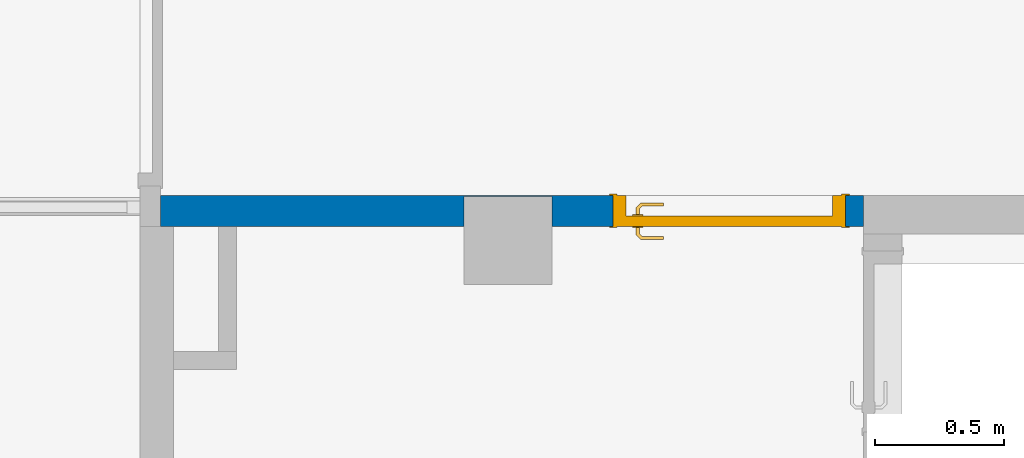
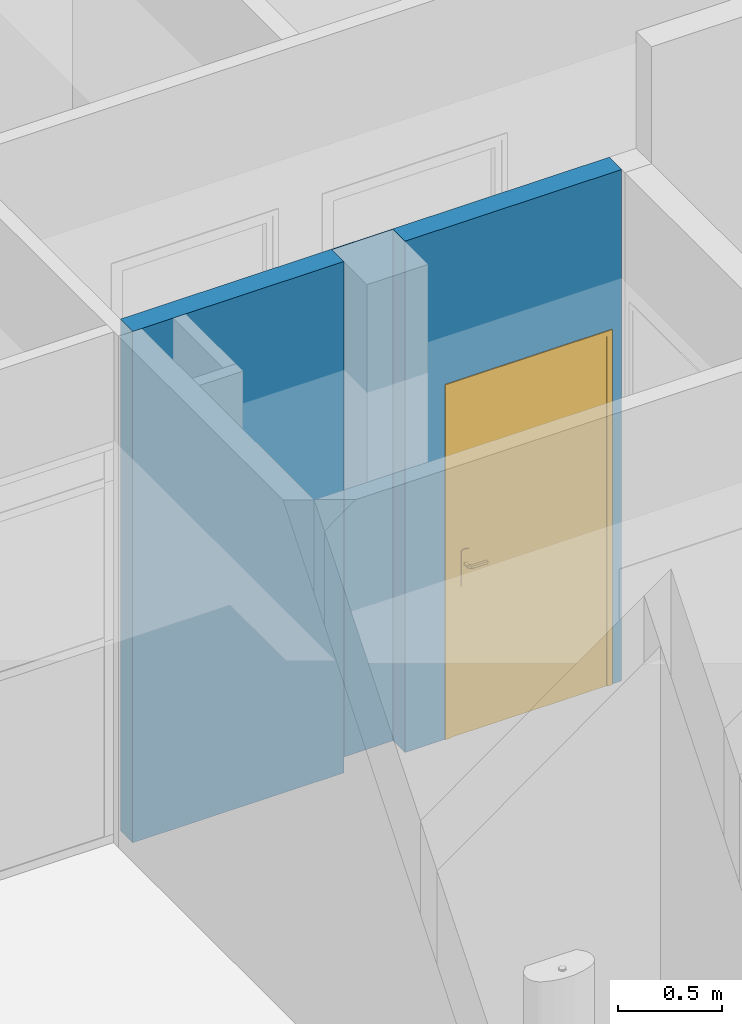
# One storey, part 66 of 97: 1 door, 1 wall, 1 opening.
"""IFC4 building model written with IfcOpenShell, lengths in metres."""

from ifc_helpers import new_model, entity, si_unit, converted_unit, derived_unit, direction, frame, origin, place, context, subcontext, project, spatial, indexed_curve, outline, extrude, polygons, source, transform, mapped, material, material_list, layer, layer_set, constituent, constituent_set, type_object, type_shapes, element, fill, save


model = new_model("IFC4")

# Units and contexts
model_context = context("Model", 3, precision=1e-05, world=origin(), true_north=direction((6.12303176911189e-17, 1.0)))
body_context = subcontext(model_context, "Body", "Model", "MODEL_VIEW")
ifc_project = project(units=[si_unit("LENGTHUNIT", "METRE"), si_unit("AREAUNIT", "SQUARE_METRE"), si_unit("VOLUMEUNIT", "CUBIC_METRE"), converted_unit("PLANEANGLEUNIT", "DEGREE", entity("IfcRatioMeasure", 0.0174532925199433), si_unit("PLANEANGLEUNIT", "RADIAN"), dimensions=[0, 0, 0, 0, 0, 0, 0]), si_unit("MASSUNIT", "GRAM", prefix="KILO"), derived_unit("MASSDENSITYUNIT", [(si_unit("MASSUNIT", "GRAM", prefix="KILO"), 1), (si_unit("LENGTHUNIT", "METRE"), -3)]), derived_unit("MOMENTOFINERTIAUNIT", [(si_unit("LENGTHUNIT", "METRE"), 4)]), si_unit("TIMEUNIT", "SECOND"), si_unit("FREQUENCYUNIT", "HERTZ"), si_unit("THERMODYNAMICTEMPERATUREUNIT", "DEGREE_CELSIUS"), derived_unit("THERMALTRANSMITTANCEUNIT", [(si_unit("MASSUNIT", "GRAM", prefix="KILO"), 1), (si_unit("THERMODYNAMICTEMPERATUREUNIT", "KELVIN"), -1), (si_unit("TIMEUNIT", "SECOND"), -3)]), derived_unit("VOLUMETRICFLOWRATEUNIT", [(si_unit("LENGTHUNIT", "METRE"), 3), (si_unit("TIMEUNIT", "SECOND"), -1)]), si_unit("ELECTRICCURRENTUNIT", "AMPERE"), si_unit("ELECTRICVOLTAGEUNIT", "VOLT"), si_unit("POWERUNIT", "WATT"), si_unit("FORCEUNIT", "NEWTON", prefix="KILO"), si_unit("ILLUMINANCEUNIT", "LUX"), si_unit("LUMINOUSFLUXUNIT", "LUMEN"), si_unit("LUMINOUSINTENSITYUNIT", "CANDELA"), derived_unit("USERDEFINED", [(si_unit("MASSUNIT", "GRAM", prefix="KILO"), -1), (si_unit("LENGTHUNIT", "METRE"), -2), (si_unit("TIMEUNIT", "SECOND"), 3), (si_unit("LUMINOUSFLUXUNIT", "LUMEN"), 1)]), derived_unit("LINEARVELOCITYUNIT", [(si_unit("LENGTHUNIT", "METRE"), 1), (si_unit("TIMEUNIT", "SECOND"), -1)]), si_unit("PRESSUREUNIT", "PASCAL"), derived_unit("USERDEFINED", [(si_unit("LENGTHUNIT", "METRE"), -2), (si_unit("MASSUNIT", "GRAM", prefix="KILO"), 1), (si_unit("TIMEUNIT", "SECOND"), -2)]), derived_unit("LINEARFORCEUNIT", [(si_unit("MASSUNIT", "GRAM", prefix="KILO"), 1), (si_unit("LENGTHUNIT", "METRE"), 1), (si_unit("TIMEUNIT", "SECOND"), -2), (si_unit("LENGTHUNIT", "METRE"), -1)]), derived_unit("PLANARFORCEUNIT", [(si_unit("MASSUNIT", "GRAM", prefix="KILO"), 1), (si_unit("LENGTHUNIT", "METRE"), 1), (si_unit("TIMEUNIT", "SECOND"), -2), (si_unit("LENGTHUNIT", "METRE"), -2)])], contexts=[model_context])

# Site, building, storey
site_placement = place(None, origin())
site = spatial("IfcSite", under=ifc_project, at=site_placement, Name="Default", CompositionType="ELEMENT")
building_placement = place(site_placement, origin())
building = spatial("IfcBuilding", under=site, at=building_placement, Name="HOTEL CONSULAIRE BOULOGNE SUR MER", CompositionType="ELEMENT")
storey_placement = place(building_placement, frame((0.0, 0.0, 3.62152697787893)))
storey = spatial("IfcBuildingStorey", under=building, at=storey_placement, Name="Niveau 1", CompositionType="ELEMENT", Elevation=3.62152697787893)

# Wall, opening, door
ifc_material_1 = material(Name="Mur par défaut", Category="Divers")
ifc_layer = layer(ifc_material_1, 0.12, Name="Mur par défaut", Category="Divers")
ifc_layer_set = layer_set([ifc_layer], Name="Mur de base:Générique - Int.120")
wall_type = type_object("IfcWallType", Name="Mur de base:Générique - Int.120", PredefinedType="NOTDEFINED", material=ifc_layer_set)
wall_placement = place(storey_placement, frame((0.14163505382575, -15.4952420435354, 0.0), z_axis=(0.0, 0.0, 1.0), x_axis=(-1.0, 0.0, 0.0)))
wall = element("IfcWall", 1, at=wall_placement, inside=storey, type_object=wall_type, material=ifc_layer_set, Name="Mur de base:Générique - Int.120", ObjectType="Mur de base:Générique - Int.120", PredefinedType="NOTDEFINED", context=body_context, shape_type="Tessellation", body=[
    polygons([(0.0690000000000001, 0.0599999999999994, 2.075), (0.0690000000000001, 0.0599999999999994, 5.41433564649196e-16), (8.79422228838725e-17, 0.0599999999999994, 5.41433564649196e-16), (3.58659005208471e-16, 0.0599999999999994, 3.0102145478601), (1.20682224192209, 0.0599999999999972, 3.0102145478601), (1.20682224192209, 0.0599999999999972, 5.41433564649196e-16), (0.969, 0.0599999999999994, 5.41433564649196e-16), (0.969, 0.0599999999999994, 2.075), (2.72216374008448, -0.0600000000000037, 5.41433564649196e-16), (0.968999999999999, -0.0600000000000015, 5.41433564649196e-16), (1.20682224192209, -0.0556961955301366, 5.41433564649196e-16), (1.54682224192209, -0.0556961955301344, 5.41433564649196e-16), (1.54682224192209, 0.059999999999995, 5.41433564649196e-16), (2.42737297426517, 0.0599999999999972, 5.41433564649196e-16), (2.49737297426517, 0.0599999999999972, 5.41433564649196e-16), (2.67216374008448, 0.0599999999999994, 5.41433564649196e-16), (2.72216374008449, 0.0599999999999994, 5.41433564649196e-16), (2.72216374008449, -0.0600000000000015, 3.0102145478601), (4.51564078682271e-16, -0.0600000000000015, 3.0102145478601), (4.51564078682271e-16, -0.0600000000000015, 5.41433564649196e-16), (0.0689999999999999, -0.0600000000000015, 5.41433564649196e-16), (0.0689999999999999, -0.0600000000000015, 2.075), (0.969, -0.0600000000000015, 2.075), (2.72216374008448, 0.0599999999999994, 3.0102145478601), (1.54682224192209, 0.0599999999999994, 3.0102145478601), (2.42737297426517, 0.0599999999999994, 3.0102145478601), (2.49737297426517, 0.0599999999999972, 3.01021454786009), (2.67216374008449, 0.0599999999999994, 3.0102145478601), (1.54682224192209, -0.0556961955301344, 3.0102145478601), (1.20682224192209, -0.0556961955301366, 3.0102145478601)], [[[6, 7, 8, 1, 2, 3, 4, 5]], [[17, 16, 15, 14, 13, 25, 26, 27, 28, 24]], [[12, 11, 30, 29]], [[11, 12, 13, 14, 15, 16, 17, 9, 10, 7, 6]], [[23, 22, 1, 8]], [[20, 3, 2, 21]], [[20, 21, 22, 23, 10, 9, 18, 19]], [[18, 24, 28, 27, 26, 25, 29, 30, 5, 4, 19]], [[3, 20, 19, 4]], [[10, 23, 8, 7]], [[13, 12, 29, 25]], [[22, 21, 2, 1]], [[9, 17, 24, 18]], [[11, 6, 5, 30]]], closed=True),
])
opening_placement = place(wall_placement, frame((0.0690000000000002, -0.059999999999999, 0.0)))
opening = element("IfcOpeningElement", 2, at=opening_placement, cuts=wall, Name="Int. Simple:PP (0.83m x 2.04m):1", ObjectType="Opening", PredefinedType="OPENING", context=body_context, shape_type="SweptSolid", body=[
    extrude(outline(indexed_curve([(0.0, 4.22994972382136e-17), (2.075, 4.22994972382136e-17), (2.075, 0.9), (0.0, 0.9), (0.0, 4.22994972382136e-17)], self_intersect=False)), frame((0.0, 0.0, 0.0), z_axis=(0.0, 1.0, 0.0), x_axis=(0.0, 0.0, 1.0)), (0.0, 0.0, 1.0), 0.12),
])
ifc_material_2 = material(Name="Finition Peinture - Blanc satiné", Category="Peinture")
ifc_constituent_1 = constituent(ifc_material_2, Name="Finition Peinture - Blanc satiné", Category="Matériaux")
ifc_material_3 = material(Name="Bois - Panneau de porte", Category="Bois")
ifc_constituent_2 = constituent(ifc_material_3, Name="Bois - Panneau de porte", Category="Matériaux")
ifc_material_4 = material(Name="Bois - Cadre de porte", Category="Bois")
ifc_constituent_3 = constituent(ifc_material_4, Name="Bois - Cadre de porte", Category="Matériaux")
ifc_constituent_set = constituent_set(constituents=[ifc_constituent_1, ifc_constituent_2, ifc_constituent_3], Name="MaterialConstituentSet")
ifc_material_list = material_list([ifc_material_4, ifc_material_4, ifc_material_3, ifc_material_2])
door_type = type_object("IfcDoorType", Name="Int. Simple:PP (0.83m x 2.04m)", OperationType="NOTDEFINED", PredefinedType="DOOR", material=ifc_material_list)
shared_shape = source(origin(), body_context, "Body", "Tessellation", [
    polygons([(0.0750000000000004, -0.00500000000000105, 0.870000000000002), (0.0846472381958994, -0.00500000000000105, 0.866003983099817), (0.0950000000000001, -0.00500000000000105, 0.86464101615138), (0.105352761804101, -0.00500000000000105, 0.866003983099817), (0.115, -0.00500000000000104, 0.870000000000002), (0.114999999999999, -0.00500000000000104, 1.08), (0.1053527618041, -0.00500000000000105, 1.08399601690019), (0.094999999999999, -0.00500000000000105, 1.08535898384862), (0.0846472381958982, -0.00500000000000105, 1.08399601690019), (0.0749999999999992, -0.00500000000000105, 1.08), (0.0749999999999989, -1.05748743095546e-15, 0.870000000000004), (0.0749999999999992, -1.05748743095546e-15, 1.08), (0.0846472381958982, -1.05748743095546e-15, 1.08399601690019), (0.094999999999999, -1.04902753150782e-15, 1.08535898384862), (0.1053527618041, -1.04902753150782e-15, 1.08399601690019), (0.114999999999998, -1.04056763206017e-15, 1.08), (0.115, -1.04056763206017e-15, 0.870000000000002), (0.105352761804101, -1.04902753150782e-15, 0.866003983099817), (0.0950000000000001, -1.04902753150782e-15, 0.86464101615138), (0.0846472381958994, -1.05748743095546e-15, 0.866003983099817)], [[[4, 5, 6, 7, 8, 9, 10, 1, 2, 3]], [[15, 16, 17, 18, 19, 20, 11, 12, 13, 14]], [[11, 20, 2, 1]], [[2, 20, 19, 3]], [[19, 18, 4, 3]], [[18, 17, 5, 4]], [[6, 5, 17, 16]], [[16, 15, 7, 6]], [[7, 15, 14, 8]], [[14, 13, 9, 8]], [[13, 12, 10, 9]], [[1, 10, 12, 11]]], closed=True),
    polygons([(0.114999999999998, 0.0399999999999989, 1.08), (0.105352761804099, 0.0399999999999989, 1.08399601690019), (0.0949999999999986, 0.0399999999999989, 1.08535898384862), (0.084647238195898, 0.0399999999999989, 1.08399601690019), (0.0749999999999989, 0.0399999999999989, 1.08), (0.0750000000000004, 0.0399999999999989, 0.870000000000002), (0.0846472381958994, 0.0399999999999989, 0.866003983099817), (0.0950000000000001, 0.0399999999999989, 0.86464101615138), (0.105352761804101, 0.0399999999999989, 0.866003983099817), (0.115, 0.0399999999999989, 0.870000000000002), (0.114999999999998, 0.0449999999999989, 1.08), (0.115, 0.0449999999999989, 0.870000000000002), (0.105352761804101, 0.0449999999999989, 0.866003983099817), (0.0950000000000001, 0.0449999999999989, 0.86464101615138), (0.0846472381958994, 0.0449999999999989, 0.866003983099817), (0.0749999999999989, 0.0449999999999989, 0.870000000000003), (0.0749999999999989, 0.0449999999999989, 1.08), (0.084647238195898, 0.0449999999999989, 1.08399601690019), (0.0949999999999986, 0.0449999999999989, 1.08535898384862), (0.105352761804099, 0.0449999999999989, 1.08399601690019)], [[[9, 10, 1, 2, 3, 4, 5, 6, 7, 8]], [[20, 11, 12, 13, 14, 15, 16, 17, 18, 19]], [[11, 20, 2, 1]], [[2, 20, 19, 3]], [[19, 18, 4, 3]], [[18, 17, 5, 4]], [[6, 5, 17, 16]], [[16, 15, 7, 6]], [[7, 15, 14, 8]], [[14, 13, 9, 8]], [[13, 12, 10, 9]], [[1, 10, 12, 11]]], closed=True),
    polygons([(0.0889999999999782, -0.00500000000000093, 1.007), (0.0929747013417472, -0.00500000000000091, 1.00778044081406), (0.0970252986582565, -0.00500000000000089, 1.00778044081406), (0.101000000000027, -0.00500000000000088, 1.00699999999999), (0.101000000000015, -0.00500000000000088, 0.993000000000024), (0.0970252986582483, -0.00500000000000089, 0.992219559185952), (0.0929747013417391, -0.00500000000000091, 0.99221955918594), (0.0889999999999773, -0.00500000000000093, 0.992999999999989), (0.0889999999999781, -0.0326509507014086, 1.007), (0.092974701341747, -0.0310045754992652, 1.00778044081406), (0.0970252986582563, -0.0293267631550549, 1.00778044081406), (0.101000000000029, -0.0276803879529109, 1.007), (0.101000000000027, -0.0276803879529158, 0.993000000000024), (0.0970252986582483, -0.0293267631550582, 0.992219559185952), (0.0929747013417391, -0.0310045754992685, 0.99221955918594), (0.0889999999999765, -0.0326509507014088, 0.992999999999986), (0.107377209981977, -0.0510281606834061, 1.007), (0.10902358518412, -0.0470534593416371, 1.00778044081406), (0.110701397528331, -0.0430028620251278, 1.00778044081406), (0.112347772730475, -0.0390281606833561, 1.007), (0.112347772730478, -0.0390281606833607, 0.993000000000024), (0.110701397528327, -0.0430028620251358, 0.992219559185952), (0.109023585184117, -0.0470534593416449, 0.99221955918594), (0.107377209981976, -0.0510281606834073, 0.992999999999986), (0.195018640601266, -0.0510281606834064, 1.00699999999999), (0.195018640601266, -0.051028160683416, 0.992999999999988), (0.195018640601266, -0.0470534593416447, 0.99221955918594), (0.195018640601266, -0.0430028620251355, 0.992219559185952), (0.195018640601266, -0.0390281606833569, 0.993000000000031), (0.195018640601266, -0.0390281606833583, 1.007), (0.195018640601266, -0.0430028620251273, 1.00778044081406), (0.195018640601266, -0.0470534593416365, 1.00778044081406), (0.147307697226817, -0.0510281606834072, 1.007), (0.152860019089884, -0.045028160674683, 1.0078786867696), (0.15368320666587, -0.039028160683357, 1.007), (0.147307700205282, -0.0510281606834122, 0.992999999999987), (0.152860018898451, -0.0450281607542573, 0.992121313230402), (0.153683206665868, -0.0390281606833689, 0.993000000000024)], [[[2, 3, 4, 5, 6, 7, 8, 1]], [[21, 20, 35, 30, 29, 38]], [[9, 10, 2, 1]], [[10, 18, 19, 11, 3, 2]], [[11, 12, 4, 3]], [[5, 4, 12, 13]], [[26, 27, 28, 29, 30, 31, 32, 25]], [[13, 14, 6, 5]], [[14, 22, 23, 15, 7, 6]], [[15, 16, 8, 7]], [[1, 8, 16, 9]], [[17, 18, 10, 9]], [[19, 20, 12, 11]], [[13, 12, 20, 21]], [[21, 22, 14, 13]], [[23, 24, 16, 15]], [[9, 16, 24, 17]], [[33, 32, 34]], [[25, 32, 33]], [[18, 17, 33]], [[34, 35, 19]], [[20, 19, 35]], [[35, 31, 30]], [[32, 31, 34]], [[31, 35, 34]], [[18, 33, 34]], [[18, 34, 19]], [[38, 28, 37]], [[36, 37, 27]], [[21, 38, 22]], [[38, 29, 28]], [[26, 36, 27]], [[24, 23, 36]], [[36, 23, 37]], [[23, 22, 37]], [[22, 38, 37]], [[27, 37, 28]], [[17, 24, 36, 26, 25, 33]]], closed=True),
    polygons([(0.10100000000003, 0.0449999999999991, 0.993000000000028), (0.101000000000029, 0.0449999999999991, 1.007), (0.0970252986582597, 0.0449999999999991, 1.00778044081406), (0.0929747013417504, 0.0449999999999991, 1.00778044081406), (0.0889999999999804, 0.0449999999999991, 1.007), (0.0889999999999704, 0.0449999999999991, 0.992999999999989), (0.0929747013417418, 0.0449999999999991, 0.99221955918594), (0.0970252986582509, 0.0449999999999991, 0.992219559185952), (0.10100000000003, 0.067485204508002, 0.993000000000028), (0.10100000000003, 0.0674852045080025, 1.007), (0.0970252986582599, 0.0691315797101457, 1.00778044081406), (0.0929747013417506, 0.070809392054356, 1.00778044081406), (0.0889999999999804, 0.0724557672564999, 1.007), (0.0889999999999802, 0.072455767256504, 0.992999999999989), (0.0929747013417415, 0.0708093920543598, 0.99221955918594), (0.0970252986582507, 0.0691315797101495, 0.992219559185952), (0.112485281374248, 0.0789704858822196, 0.993000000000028), (0.112485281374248, 0.0789704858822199, 1.007), (0.110838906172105, 0.0829451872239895, 1.00778044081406), (0.109161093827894, 0.0869957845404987, 1.00778044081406), (0.107514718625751, 0.090970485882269, 1.007), (0.107514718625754, 0.090970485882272, 0.992999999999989), (0.109161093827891, 0.0869957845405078, 0.99221955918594), (0.110838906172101, 0.0829451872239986, 0.992219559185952), (0.195045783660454, 0.0789704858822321, 0.993000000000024), (0.195045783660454, 0.0829451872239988, 0.992219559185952), (0.195045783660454, 0.086995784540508, 0.99221955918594), (0.195045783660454, 0.0909704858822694, 0.992999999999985), (0.195045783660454, 0.0909704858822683, 1.007), (0.195045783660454, 0.0869957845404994, 1.00778044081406), (0.195045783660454, 0.0829451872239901, 1.00778044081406), (0.195045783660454, 0.0789704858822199, 1.007), (0.147445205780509, 0.0909704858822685, 1.007), (0.152942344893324, 0.0849704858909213, 1.0078786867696), (0.153765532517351, 0.0789704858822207, 1.007), (0.147445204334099, 0.0909704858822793, 0.992999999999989), (0.152942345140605, 0.0849704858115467, 0.992121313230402), (0.153765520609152, 0.0789704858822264, 0.993000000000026)], [[[4, 5, 6, 7, 8, 1, 2, 3]], [[18, 17, 38, 25, 32, 35]], [[2, 1, 9, 10]], [[25, 26, 27, 28, 29, 30, 31, 32]], [[10, 11, 3, 2]], [[11, 19, 20, 12, 4, 3]], [[12, 13, 5, 4]], [[6, 5, 13, 14]], [[14, 15, 7, 6]], [[15, 23, 24, 16, 8, 7]], [[16, 9, 1, 8]], [[10, 9, 17, 18]], [[18, 19, 11, 10]], [[20, 21, 13, 12]], [[14, 13, 21, 22]], [[22, 23, 15, 14]], [[24, 17, 9, 16]], [[35, 31, 34]], [[33, 34, 30]], [[18, 35, 19]], [[35, 32, 31]], [[29, 33, 30]], [[21, 20, 33]], [[33, 20, 34]], [[20, 19, 34]], [[19, 35, 34]], [[30, 34, 31]], [[21, 33, 29, 28, 36, 22]], [[36, 27, 37]], [[28, 27, 36]], [[23, 22, 36]], [[37, 38, 24]], [[17, 24, 38]], [[38, 26, 25]], [[27, 26, 37]], [[26, 38, 37]], [[23, 36, 37]], [[23, 37, 24]]], closed=True),
    polygons([(0.034999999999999, 0.04, 2.04), (0.865, 0.04, 2.04), (0.864999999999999, 0.04, 0.0), (0.034999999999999, 0.04, 0.0), (0.034999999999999, 4.22994972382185e-17, 2.04), (0.034999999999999, 4.22994972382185e-17, 0.0), (0.864999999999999, 4.22994972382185e-17, 0.0), (0.865, 4.22994972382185e-17, 2.04)], [[[4, 1, 2, 3]], [[7, 8, 5, 6]], [[2, 1, 5, 8]], [[3, 2, 8, 7]], [[4, 3, 7, 6]], [[1, 4, 6, 5]]], closed=True),
    polygons([(-1.54308565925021e-14, 0.0, 0.0), (-1.54308565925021e-14, 0.120000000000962, 0.0), (0.0499999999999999, 0.120000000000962, 0.0), (0.0499999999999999, 0.040000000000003, 0.0), (0.0349999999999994, 0.040000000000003, 0.0), (0.0349999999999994, 0.0, 0.0), (-1.53631773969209e-14, 0.0, 2.07500000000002), (-1.53631773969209e-14, 0.120000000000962, 2.07500000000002), (0.900000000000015, 0.120000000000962, 2.07500000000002), (0.900000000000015, 0.120000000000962, 9.23443718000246e-25), (0.85, 0.120000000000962, 6.02669015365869e-24), (0.85, 0.120000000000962, 2.025), (0.05, 0.120000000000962, 2.025), (0.05, 0.040000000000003, 2.025), (0.85, 0.040000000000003, 2.025), (0.85, 0.040000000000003, 1.99209609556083e-25), (0.865, 0.040000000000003, 1.51399294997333e-24), (0.865000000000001, 0.040000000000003, 2.04), (0.0349999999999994, 0.040000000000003, 2.04), (0.0349999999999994, 0.0, 2.04), (0.865, 0.0, 2.04), (0.865, 0.0, 3.40121094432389e-24), (0.900000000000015, 0.0, 1.81925185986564e-24), (0.900000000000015, 0.0, 2.07500000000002)], [[[5, 6, 1, 2, 3, 4]], [[11, 10, 23, 22, 17, 16]], [[14, 13, 12, 15]], [[20, 19, 18, 21]], [[2, 1, 7, 8]], [[15, 12, 11, 16]], [[21, 18, 17, 22]], [[3, 2, 8, 9, 10, 11, 12, 13]], [[4, 3, 13, 14]], [[6, 5, 19, 20]], [[9, 24, 23, 10]], [[16, 17, 18, 19, 5, 4, 14, 15]], [[22, 23, 24, 7, 1, 6, 20, 21]], [[8, 7, 24, 9]]], closed=True),
    polygons([(0.0149999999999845, 0.120000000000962, 1.35358391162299e-16), (-0.0150000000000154, 0.120000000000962, 1.35358391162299e-16), (-0.0150000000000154, 0.125000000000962, 1.35358391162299e-16), (0.0149999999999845, 0.125000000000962, 1.35358391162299e-16), (0.0149999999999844, 0.120000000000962, 2.06000000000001), (0.884999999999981, 0.120000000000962, 2.06000000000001), (0.88499999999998, 0.120000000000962, 5.09144897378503e-24), (0.91499999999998, 0.120000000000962, -5.44393448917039e-24), (0.91499999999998, 0.120000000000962, 2.09000000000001), (-0.0150000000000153, 0.120000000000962, 2.09000000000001), (-0.0150000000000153, 0.125000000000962, 2.09000000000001), (0.91499999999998, 0.125000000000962, 2.09000000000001), (0.91499999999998, 0.125000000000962, 5.03766794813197e-24), (0.88499999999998, 0.125000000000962, -1.89153776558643e-24), (0.88499999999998, 0.125000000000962, 2.06000000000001), (0.0149999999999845, 0.125000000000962, 2.06000000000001)], [[[1, 2, 3, 4]], [[14, 13, 8, 7]], [[5, 16, 15, 6]], [[7, 8, 9, 10, 2, 1, 5, 6]], [[3, 2, 10, 11]], [[6, 15, 14, 7]], [[4, 3, 11, 12, 13, 14, 15, 16]], [[1, 4, 16, 5]], [[12, 9, 8, 13]], [[11, 10, 9, 12]]], closed=True),
    polygons([(0.0149999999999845, -0.00499999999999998, 1.35358391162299e-16), (-0.0150000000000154, -0.00499999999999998, 1.35358391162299e-16), (-0.0150000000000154, 0.0, 1.35358391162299e-16), (0.0149999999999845, 0.0, 1.35358391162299e-16), (0.88499999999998, -0.00499999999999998, -1.35358391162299e-16), (0.88499999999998, 0.0, -1.35358391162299e-16), (0.91499999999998, 0.0, -1.35358391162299e-16), (0.91499999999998, -0.00499999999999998, -1.35358391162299e-16), (0.0149999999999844, -0.00499999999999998, 2.06000000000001), (0.884999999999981, -0.00499999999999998, 2.06000000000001), (0.91499999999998, -0.00499999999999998, 2.09000000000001), (-0.0150000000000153, -0.00499999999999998, 2.09000000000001), (-0.0150000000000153, 0.0, 2.09000000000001), (0.91499999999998, 0.0, 2.09000000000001), (0.88499999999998, 0.0, 2.06000000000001), (0.0149999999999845, 0.0, 2.06000000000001)], [[[1, 2, 3, 4]], [[6, 7, 8, 5]], [[9, 16, 15, 10]], [[5, 8, 11, 12, 2, 1, 9, 10]], [[3, 2, 12, 13]], [[10, 15, 6, 5]], [[4, 3, 13, 14, 7, 6, 15, 16]], [[1, 4, 16, 9]], [[14, 11, 8, 7]], [[13, 12, 11, 14]]], closed=True),
])
type_shapes(door_type, [shared_shape])
door_placement = place(opening_placement, frame((0.9, 0.119999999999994, 0.0), z_axis=(0.0, 0.0, 1.0), x_axis=(-1.0, 0.0, 0.0)))
door = element("IfcDoor", 3, at=door_placement, inside=storey, type_object=door_type, material=ifc_constituent_set, Name="Int. Simple:PP (0.83m x 2.04m)", ObjectType="Int. Simple:PP (0.83m x 2.04m)", OperationType="NOTDEFINED", OverallHeight=2.075, OverallWidth=0.9, PredefinedType="DOOR", context=body_context, shape_type="MappedRepresentation", body=[
    mapped(shared_shape, transform((0.0, 0.0, 0.0), scale=1.0)),
])
fill(opening, door)

save(model, "model.ifc")
